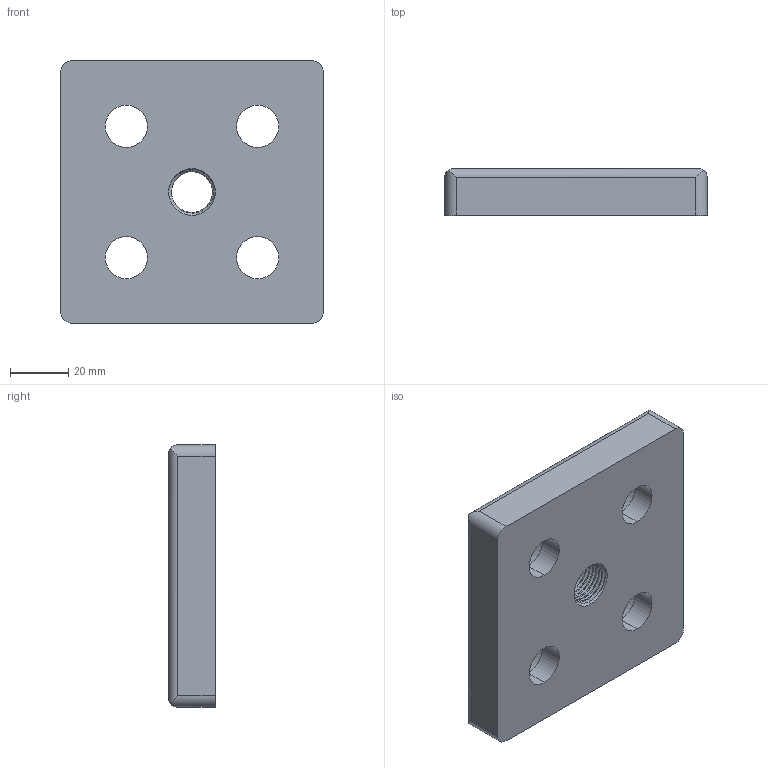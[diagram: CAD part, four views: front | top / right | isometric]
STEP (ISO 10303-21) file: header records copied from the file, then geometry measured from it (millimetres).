
FILE_DESCRIPTION (( 'STEP AP203' ), '1' );
FILE_NAME ('503040_Transport- u. Fußplatte ZN 90x90 Nut10 M16 vz.step', '2022-08-02T06:32:42', ( '' ), ( '' ), 'SwSTEP 2.0', 'SolidWorks 2021', '' );
FILE_SCHEMA (( 'CONFIG_CONTROL_DESIGN' ));
Length unit declared in the file: millimetre
Products named in the file (1): 503040_Transport- u. Fußplatte ZN 90x90 Nut10 M16 vz
Bounding box: 90 x 16 x 90 mm (x, y, z)
Volume: 110637.6 mm3; surface area: 24316 mm2
Topology: 1 solids, 1 shells, 62 faces, 167 edges, 111 vertices
Faces by surface type: cylinder 44, plane 10, cone 5, bspline 3
Entity records: 4156 total; most frequent: CARTESIAN_POINT 2635, ORIENTED_EDGE 334, DIRECTION 266, EDGE_CURVE 167, VERTEX_POINT 111, AXIS2_PLACEMENT_3D 103, EDGE_LOOP 76, FACE_OUTER_BOUND 62
